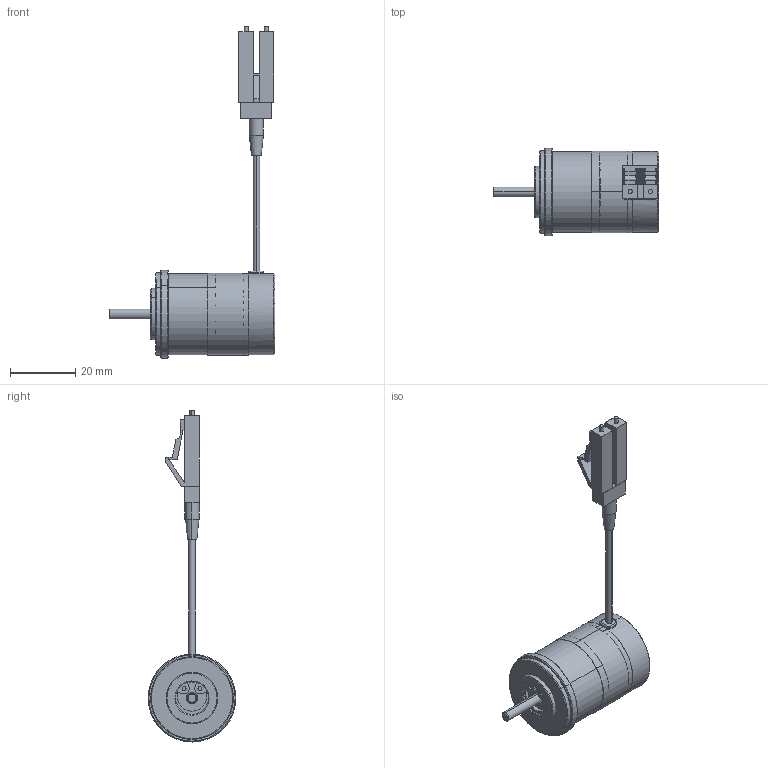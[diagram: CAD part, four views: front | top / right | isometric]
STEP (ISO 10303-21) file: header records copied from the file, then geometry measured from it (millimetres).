
FILE_DESCRIPTION (( 'STEP AP203' ), '1' );
FILE_NAME ('MR341.STEP', '2018-04-09T23:08:24', ( '' ), ( '' ), 'SwSTEP 2.0', 'SolidWorks 2017', '' );
FILE_SCHEMA (( 'CONFIG_CONTROL_DESIGN' ));
Length unit declared in the file: inch
Products named in the file (1): MR341
Bounding box: 50.91 x 26.97 x 101.9 mm (x, y, z)
Volume: 11495.4 mm3; surface area: 11187.2 mm2
Topology: 29 solids, 29 shells, 348 faces, 825 edges, 521 vertices
Faces by surface type: plane 141, cylinder 121, cone 48, sphere 28, torus 10
Entity records: 9690 total; most frequent: DIRECTION 1759, CARTESIAN_POINT 1701, ORIENTED_EDGE 1514, EDGE_CURVE 757, AXIS2_PLACEMENT_3D 665, VERTEX_POINT 485, VECTOR 429, LINE 429
